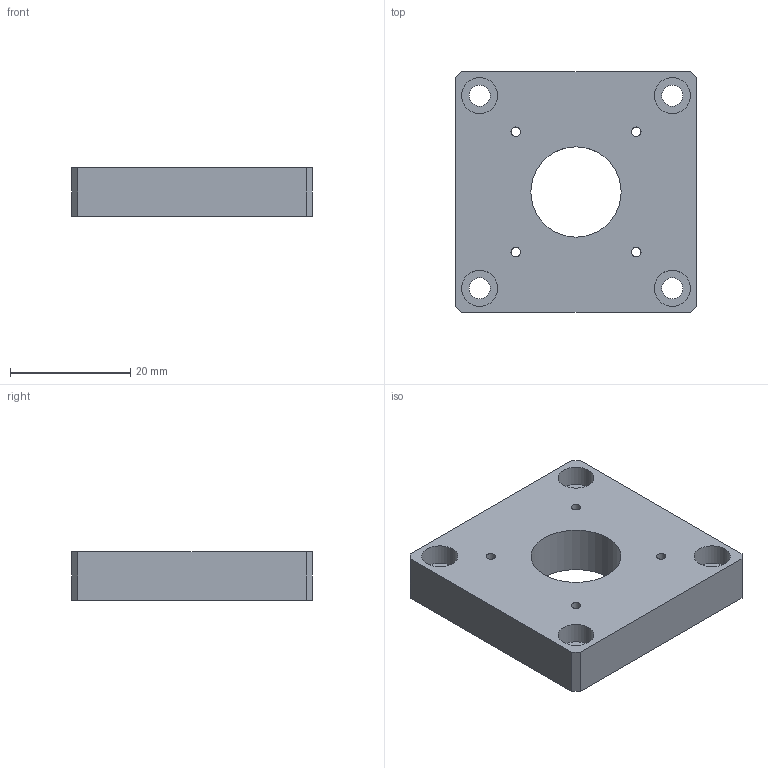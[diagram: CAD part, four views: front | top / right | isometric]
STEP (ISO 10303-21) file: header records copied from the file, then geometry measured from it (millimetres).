
FILE_DESCRIPTION( ( 'STEP AP203' ), '1' );
FILE_NAME( 'C:/3D-Trans/3D_A49-3+071218.stp', '2007-12-18T05:03:24', ( ' ' ), ( ' ' ), 'XStep 1.0', ' ', ' ' );
FILE_SCHEMA( ( 'CONFIG_CONTROL_DESIGN' ) );
Length unit declared in the file: millimetre
Products named in the file (1): 1
Bounding box: 40 x 40 x 8 mm (x, y, z)
Volume: 10736.9 mm3; surface area: 5010.4 mm2
Topology: 1 solids, 1 shells, 27 faces, 67 edges, 46 vertices
Faces by surface type: plane 14, cylinder 13
Full cylindrical faces by diameter (mm): 1.6 x4, 3.5 x4, 6 x4, 15 x1
Entity records: 798 total; most frequent: DIRECTION 132, CARTESIAN_POINT 120, ORIENTED_EDGE 100, EDGE_LOOP 62, AXIS2_PLACEMENT_3D 54, EDGE_CURVE 50, VERTEX_POINT 42, FACE_OUTER_BOUND 40
